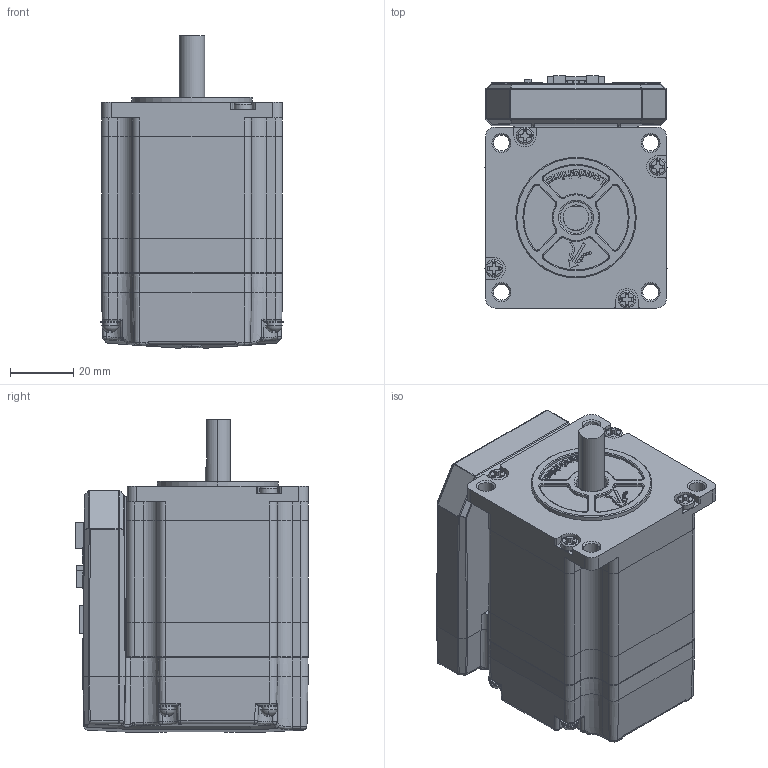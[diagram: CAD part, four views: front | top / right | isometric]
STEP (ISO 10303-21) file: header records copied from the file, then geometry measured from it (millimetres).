
FILE_DESCRIPTION((''),'2;1');
FILE_NAME('ICL57-RS23-ALL_ASM','2022-01-18T10:20:33',('chensf'),(''),'CREO PARAMETRIC BY PTC INC, 2019010','CREO PARAMETRIC BY PTC INC, 2019010','');
FILE_SCHEMA(('CONFIG_CONTROL_DESIGN','GEOMETRIC_VALIDATION_PROPERTIES_MIM'));
Products named in the file (37): 57-PCB1; 57-PCB2; 5P-PAIZHEN; 5P-PAIMU; 6P-PAIZHEN; 6P-PAIMU; EPUD; 2P-381; B04B-ZESK-1D; HEADER_2_0_4X; LED-RED; DIP_SWITCH_8PIN_VIC2; 57-PCB-ALL_ASM; D3_GB9074_26_11; D3_GB9074_24_14; M3X6; M3X6_GB9074_4_ASM; 26AWG; M3X8_GB818_9; M2-5_ASM; MANIFOLD_SOLID_BREP_96_2; MANIFOLD_SOLID_BREP_97_1; ADMI2C5E7B98_ASM_1_ASM; ICL57-RS23-BACK_61_1; ICL57-RS23_ASM; DG57HSD-005-S06; CGCGT; Z57HS56MD21B15; 12-8-2_300; ZZZJ_ASM; DZTX57HSD32-S1; DZZJ_ASM; M3X47; DG57HSD-004-S04DY; ICL57CM12C-B15_ASM; ICL57CM12C-B1500_ASM; ICL57-RS23-ALL_ASM
Assembly tree (46 placements, depth 5):
  ICL57-RS23-ALL_ASM
    57-PCB-ALL_ASM
      57-PCB1
      57-PCB2
      5P-PAIZHEN
      5P-PAIMU
      6P-PAIZHEN
      6P-PAIMU
      EPUD
      2P-381
      B04B-ZESK-1D  x2
      HEADER_2_0_4X
      LED-RED  x2
      DIP_SWITCH_8PIN_VIC2
    M3X6_GB9074_4_ASM  x4
      D3_GB9074_26_11
      D3_GB9074_24_14
      M3X6
    26AWG
    M2-5_ASM
      M3X8_GB818_9
      D3_GB9074_26_11
      D3_GB9074_24_14
    ICL57-RS23_ASM
      ADMI2C5E7B98_ASM_1_ASM
        MANIFOLD_SOLID_BREP_96_2
        MANIFOLD_SOLID_BREP_97_1
      ICL57-RS23-BACK_61_1
    ICL57CM12C-B1500_ASM
      ICL57CM12C-B15_ASM
        DG57HSD-005-S06
        ZZZJ_ASM
          CGCGT
          Z57HS56MD21B15
          12-8-2_300
        DZZJ_ASM
          DZTX57HSD32-S1
        M3X47  x4
        DG57HSD-004-S04DY
Bounding box: 57.57 x 73.52 x 98.85 mm (x, y, z)
Volume: 143047.2 mm3; surface area: 115145.1 mm2
Topology: 45 solids, 45 shells, 4281 faces, 11116 edges, 7103 vertices
Faces by surface type: plane 2629, cylinder 1006, cone 205, bspline 179, torus 140, extrusion 79, sphere 43
Entity records: 150998 total; most frequent: CARTESIAN_POINT 33435, ORIENTED_EDGE 20710, DIRECTION 19549, EDGE_CURVE 10355, VECTOR 7267, LINE 7188, VERTEX_POINT 6627, AXIS2_PLACEMENT_3D 6141
